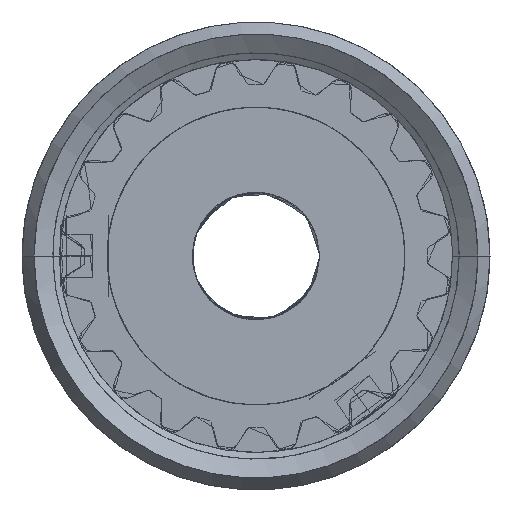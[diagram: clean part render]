
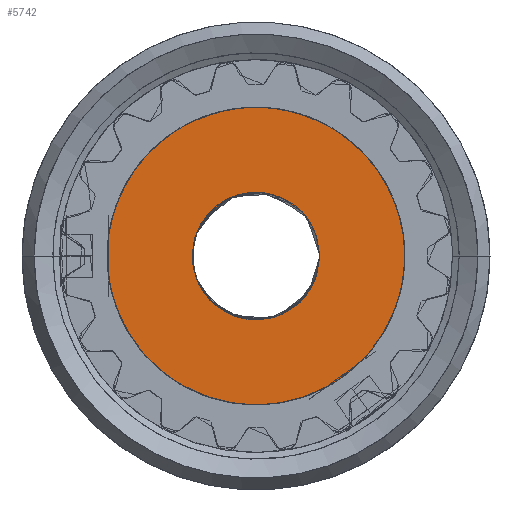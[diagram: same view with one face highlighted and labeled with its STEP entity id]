
A CAD part, left-side view. The second image highlights one B-rep face of the part: STEP entity #5742.
In plain terms, the highlighted planar face has unit normal (-1, 0, 0).
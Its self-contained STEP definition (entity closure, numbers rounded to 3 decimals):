
#21=PLANE('',#22213);
#70=FACE_BOUND('',#6741,.T.);
#5742=ADVANCED_FACE('',(#6238,#70),#21,.T.);
#6238=FACE_OUTER_BOUND('',#6740,.T.);
#6740=EDGE_LOOP('',(#7854));
#6741=EDGE_LOOP('',(#7855));
#7854=ORIENTED_EDGE('',*,*,#16134,.T.);
#7855=ORIENTED_EDGE('',*,*,#16135,.T.);
#9257=(
BOUNDED_CURVE()
B_SPLINE_CURVE(2,(#33376,#33377,#33378,#33379,#33380,#33381,#33382,#33383,
#33384),.UNSPECIFIED.,.T.,.F.)
B_SPLINE_CURVE_WITH_KNOTS((3,2,2,2,3),(0.,1.571,3.142,
4.712,6.283),.UNSPECIFIED.)
CURVE()
GEOMETRIC_REPRESENTATION_ITEM()
RATIONAL_B_SPLINE_CURVE((1.,0.707,1.,0.707,1.,0.707,
1.,0.707,1.))
REPRESENTATION_ITEM('')
);
#9258=(
BOUNDED_CURVE()
B_SPLINE_CURVE(2,(#33385,#33386,#33387,#33388,#33389,#33390,#33391,#33392,
#33393),.UNSPECIFIED.,.T.,.F.)
B_SPLINE_CURVE_WITH_KNOTS((3,2,2,2,3),(0.,1.571,3.142,
4.712,6.283),.UNSPECIFIED.)
CURVE()
GEOMETRIC_REPRESENTATION_ITEM()
RATIONAL_B_SPLINE_CURVE((1.,0.707,1.,0.707,1.,0.707,
1.,0.707,1.))
REPRESENTATION_ITEM('')
);
#9259=(
BOUNDED_CURVE()
B_SPLINE_CURVE(2,(#33394,#33395,#33396,#33397,#33398,#33399,#33400,#33401,
#33402),.UNSPECIFIED.,.T.,.F.)
B_SPLINE_CURVE_WITH_KNOTS((3,2,2,2,3),(3.142,4.712,
6.283,7.854,9.425),.UNSPECIFIED.)
CURVE()
GEOMETRIC_REPRESENTATION_ITEM()
RATIONAL_B_SPLINE_CURVE((1.,0.707,1.,0.707,1.,0.707,
1.,0.707,1.))
REPRESENTATION_ITEM('')
);
#9260=(
BOUNDED_CURVE()
B_SPLINE_CURVE(2,(#33403,#33404,#33405,#33406,#33407,#33408,#33409,#33410,
#33411),.UNSPECIFIED.,.T.,.F.)
B_SPLINE_CURVE_WITH_KNOTS((3,2,2,2,3),(3.142,4.712,
6.283,7.854,9.425),.UNSPECIFIED.)
CURVE()
GEOMETRIC_REPRESENTATION_ITEM()
RATIONAL_B_SPLINE_CURVE((1.,0.707,1.,0.707,1.,0.707,
1.,0.707,1.))
REPRESENTATION_ITEM('')
);
#10632=PCURVE('',#21,#12466);
#10633=PCURVE('',#21,#12467);
#12466=DEFINITIONAL_REPRESENTATION('',(#9258),#47554);
#12467=DEFINITIONAL_REPRESENTATION('',(#9260),#47554);
#14300=SURFACE_CURVE('',#9257,(#10632),.PCURVE_S1.);
#14301=SURFACE_CURVE('',#9259,(#10633),.PCURVE_S1.);
#16134=EDGE_CURVE('',#20692,#20692,#14300,.T.);
#16135=EDGE_CURVE('',#20693,#20693,#14301,.T.);
#20692=VERTEX_POINT('',#33374);
#20693=VERTEX_POINT('',#33375);
#22213=AXIS2_PLACEMENT_3D('',#33373,#22267,$);
#22267=DIRECTION('',(-1.,0.,0.));
#33373=CARTESIAN_POINT('',(0.,-7.,7.));
#33374=CARTESIAN_POINT('',(0.,7.,0.));
#33375=CARTESIAN_POINT('',(0.,-3.,0.));
#33376=CARTESIAN_POINT('',(0.,7.,0.));
#33377=CARTESIAN_POINT('',(0.,7.,-7.));
#33378=CARTESIAN_POINT('',(0.,0.,-7.));
#33379=CARTESIAN_POINT('',(0.,-7.,-7.));
#33380=CARTESIAN_POINT('',(0.,-7.,0.));
#33381=CARTESIAN_POINT('',(0.,-7.,7.));
#33382=CARTESIAN_POINT('',(0.,0.,7.));
#33383=CARTESIAN_POINT('',(0.,7.,7.));
#33384=CARTESIAN_POINT('',(0.,7.,0.));
#33385=CARTESIAN_POINT('',(1.,0.5));
#33386=CARTESIAN_POINT('',(1.,1.));
#33387=CARTESIAN_POINT('',(0.5,1.));
#33388=CARTESIAN_POINT('',(0.,1.));
#33389=CARTESIAN_POINT('',(0.,0.5));
#33390=CARTESIAN_POINT('',(0.,0.));
#33391=CARTESIAN_POINT('',(0.5,0.));
#33392=CARTESIAN_POINT('',(1.,0.));
#33393=CARTESIAN_POINT('',(1.,0.5));
#33394=CARTESIAN_POINT('',(0.,-3.,0.));
#33395=CARTESIAN_POINT('',(0.,-3.,-3.));
#33396=CARTESIAN_POINT('',(0.,0.,-3.));
#33397=CARTESIAN_POINT('',(0.,3.,-3.));
#33398=CARTESIAN_POINT('',(0.,3.,0.));
#33399=CARTESIAN_POINT('',(0.,3.,3.));
#33400=CARTESIAN_POINT('',(0.,0.,3.));
#33401=CARTESIAN_POINT('',(0.,-3.,3.));
#33402=CARTESIAN_POINT('',(0.,-3.,0.));
#33403=CARTESIAN_POINT('',(0.286,0.5));
#33404=CARTESIAN_POINT('',(0.286,0.714));
#33405=CARTESIAN_POINT('',(0.5,0.714));
#33406=CARTESIAN_POINT('',(0.714,0.714));
#33407=CARTESIAN_POINT('',(0.714,0.5));
#33408=CARTESIAN_POINT('',(0.714,0.286));
#33409=CARTESIAN_POINT('',(0.5,0.286));
#33410=CARTESIAN_POINT('',(0.286,0.286));
#33411=CARTESIAN_POINT('',(0.286,0.5));
#47554=(
GEOMETRIC_REPRESENTATION_CONTEXT(2)
PARAMETRIC_REPRESENTATION_CONTEXT()
REPRESENTATION_CONTEXT('pspace','')
);
